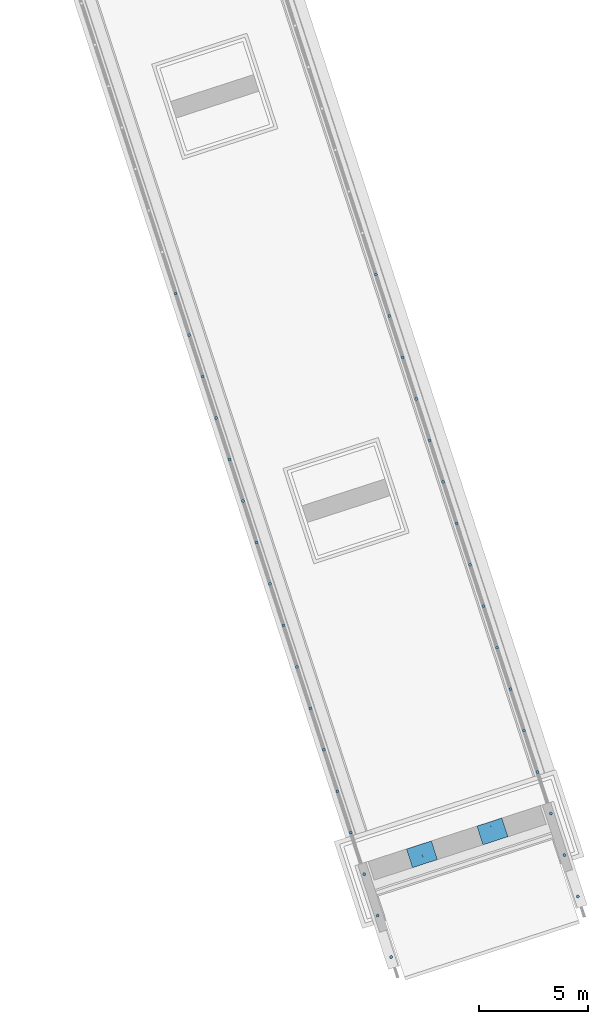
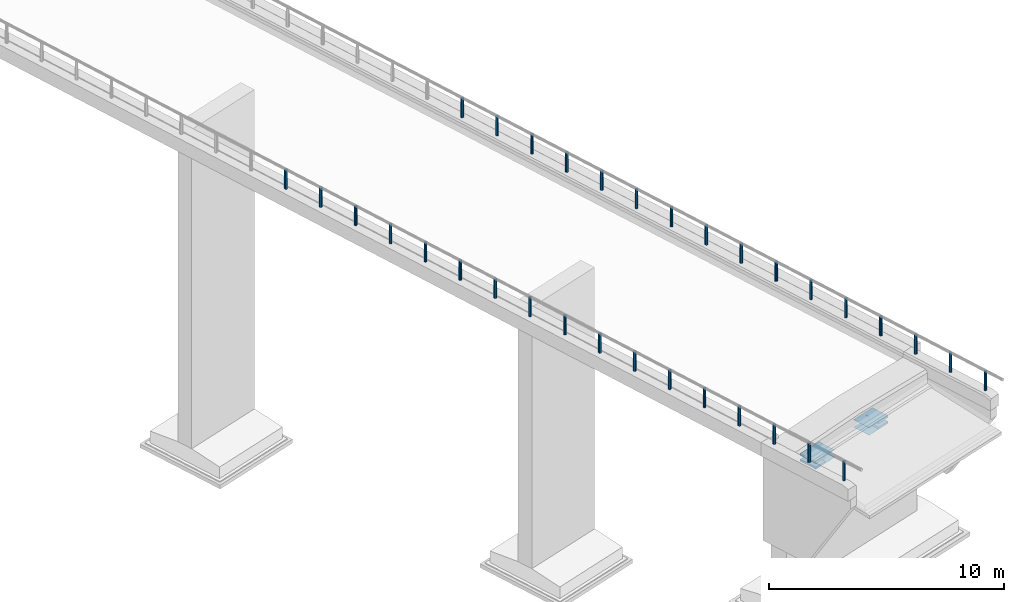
# Not in any storey, part 2 of 10: 33 members, 2 bearings, 2 elements without a shape of their own.
"""IFC4X3_ADD2 model written with IfcOpenShell, lengths in metres."""

from ifc_helpers import new_model, entity, si_unit, converted_unit, derived_unit, direction, frame, frame_2d, origin, origin_2d, place, context, subcontext, project, library, spatial, rectangle, circle, extrude, source, transform, mapped, type_object, type_shapes, element, aggregate, save


model = new_model("IFC4X3_ADD2")

# Units and contexts
model_context = context("Model", 3, precision=1e-05, world=origin(), true_north=direction((-0.011993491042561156, 0.9999280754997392)))
plan_context = context("Plan", 2, precision=1e-05, world=origin_2d())
body_context = subcontext(model_context, "Body", "Model", "MODEL_VIEW")
ifc_project = project(units=[si_unit("LENGTHUNIT", "METRE"), si_unit("AREAUNIT", "SQUARE_METRE"), si_unit("VOLUMEUNIT", "CUBIC_METRE"), si_unit("MASSUNIT", "GRAM", prefix="KILO"), converted_unit("TIMEUNIT", "year", entity("IfcTimeMeasure", 31557600.0), si_unit("TIMEUNIT", "SECOND"), dimensions=[0, 0, 1, 0, 0, 0, 0]), si_unit("PLANEANGLEUNIT", "RADIAN"), si_unit("THERMODYNAMICTEMPERATUREUNIT", "DEGREE_CELSIUS"), si_unit("FORCEUNIT", "NEWTON", prefix="KILO"), si_unit("PRESSUREUNIT", "PASCAL", prefix="MEGA"), si_unit("SOLIDANGLEUNIT", "STERADIAN"), derived_unit("MASSDENSITYUNIT", [(si_unit("MASSUNIT", "GRAM", prefix="KILO"), 1), (si_unit("VOLUMEUNIT", "CUBIC_METRE"), -1)]), derived_unit("MODULUSOFELASTICITYUNIT", [(si_unit("PRESSUREUNIT", "PASCAL", prefix="MEGA"), 1)]), derived_unit("THERMALEXPANSIONCOEFFICIENTUNIT", [(si_unit("THERMODYNAMICTEMPERATUREUNIT", "DEGREE_CELSIUS"), -1)])], contexts=[model_context, plan_context])
project_library = library(declared=ifc_project)

# Site, bridge, bridge parts
site_placement = place(None, origin())
site = spatial("IfcSite", under=ifc_project, at=site_placement, Name="Site BR-01", CompositionType="ELEMENT")
bridge_placement = place(site_placement, origin())
bridge = spatial("IfcBridge", under=site, at=bridge_placement, Name="BR-01", CompositionType="ELEMENT", PredefinedType="USERDEFINED")
bridge_part_1_placement = place(bridge_placement, origin())
bridge_part_1 = spatial("IfcBridgePart", under=bridge, at=bridge_part_1_placement, Name="Superstructure", CompositionType="ELEMENT", PredefinedType="SUPERSTRUCTURE", UsageType="LONGITUDINAL")
bridge_part_2_placement = place(bridge_part_1_placement, frame((0.0, 0.0, 62.729)))
bridge_part_2 = spatial("IfcBridgePart", under=bridge_part_1, at=bridge_part_2_placement, Name="Deck", CompositionType="ELEMENT", PredefinedType="DECK", UsageType="LONGITUDINAL")

# Railing, members
railing_1_placement = place(bridge_part_2_placement, frame((17.7389524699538, 118.69444238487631, 3.2577553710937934), z_axis=(0.0, 0.0, 1.0), x_axis=(0.3088039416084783, -0.951125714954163, 0.0)))
railing_1 = element("IfcRailing", 1, at=railing_1_placement, inside=bridge_part_2, Name="Bridge railing left", PredefinedType="GUARDRAIL")
member_type = type_object("IfcMemberType", Name="Railing post D140", PredefinedType="POST")
shared_shape = source(origin(), body_context, "Body", "SweptSolid", [extrude(circle(Radius=0.07), origin(), (0.0, 0.0, 1.0), 1.0)])
type_shapes(member_type, [shared_shape])
member_1_placement = place(bridge_part_2_placement, frame((38.11965019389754, 55.9207085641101, 1.9649926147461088), z_axis=(0.0, 0.0, 1.0), x_axis=(0.3088039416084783, -0.951125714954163, 0.0)))
member_1 = element("IfcMember", 2, at=member_1_placement, type_object=member_type, Name="Railing post left 34", PredefinedType="POST", context=body_context, shape_type="MappedRepresentation", body=[
    mapped(shared_shape, transform((0.0, 0.0, 0.0))),
])
member_2_placement = place(bridge_part_2_placement, frame((38.737247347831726, 54.018473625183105, 1.9561196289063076), z_axis=(0.0, 0.0, 1.0), x_axis=(0.3088039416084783, -0.951125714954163, 0.0)))
member_2 = element("IfcMember", 3, at=member_2_placement, type_object=member_type, Name="Railing post left 35", PredefinedType="POST", context=body_context, shape_type="MappedRepresentation", body=[
    mapped(shared_shape, transform((0.0, 0.0, 0.0))),
])
member_3_placement = place(bridge_part_2_placement, frame((39.35484421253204, 52.11623954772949, 1.947246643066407), z_axis=(0.0, 0.0, 1.0), x_axis=(0.3088039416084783, -0.951125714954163, 0.0)))
member_3 = element("IfcMember", 4, at=member_3_placement, type_object=member_type, Name="Railing post left 36", PredefinedType="POST", context=body_context, shape_type="MappedRepresentation", body=[
    mapped(shared_shape, transform((0.0, 0.0, 0.0))),
])
member_4_placement = place(bridge_part_2_placement, frame((39.972440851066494, 50.214005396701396, 1.938373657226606), z_axis=(0.0, 0.0, 1.0), x_axis=(0.3088039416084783, -0.951125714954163, 0.0)))
member_4 = element("IfcMember", 5, at=member_4_placement, type_object=member_type, Name="Railing post left 37", PredefinedType="POST", context=body_context, shape_type="MappedRepresentation", body=[
    mapped(shared_shape, transform((0.0, 0.0, 0.0))),
])
member_5_placement = place(bridge_part_2_placement, frame((40.590038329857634, 48.3117705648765, 1.9295083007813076), z_axis=(0.0, 0.0, 1.0), x_axis=(0.3088039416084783, -0.951125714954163, 0.0)))
member_5 = element("IfcMember", 6, at=member_5_placement, type_object=member_type, Name="Railing post left 38", PredefinedType="POST", context=body_context, shape_type="MappedRepresentation", body=[
    mapped(shared_shape, transform((0.0, 0.0, 0.0))),
])
member_6_placement = place(bridge_part_2_placement, frame((41.207634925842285, 46.409536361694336, 1.920635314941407), z_axis=(0.0, 0.0, 1.0), x_axis=(0.3088039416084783, -0.951125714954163, 0.0)))
member_6 = element("IfcMember", 7, at=member_6_placement, type_object=member_type, Name="Railing post left 39", PredefinedType="POST", context=body_context, shape_type="MappedRepresentation", body=[
    mapped(shared_shape, transform((0.0, 0.0, 0.0))),
])
member_7_placement = place(bridge_part_2_placement, frame((41.8252317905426, 44.50730228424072, 1.911762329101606), z_axis=(0.0, 0.0, 1.0), x_axis=(0.3088039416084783, -0.951125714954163, 0.0)))
member_7 = element("IfcMember", 8, at=member_7_placement, type_object=member_type, Name="Railing post left 40", PredefinedType="POST", context=body_context, shape_type="MappedRepresentation", body=[
    mapped(shared_shape, transform((0.0, 0.0, 0.0))),
])
member_8_placement = place(bridge_part_2_placement, frame((42.442828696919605, 42.605067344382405, 1.9028893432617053), z_axis=(0.0, 0.0, 1.0), x_axis=(0.3088039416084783, -0.951125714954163, 0.0)))
member_8 = element("IfcMember", 9, at=member_8_placement, type_object=member_type, Name="Railing post left 41", PredefinedType="POST", context=body_context, shape_type="MappedRepresentation", body=[
    mapped(shared_shape, transform((0.0, 0.0, 0.0))),
])
member_9_placement = place(bridge_part_2_placement, frame((43.06042551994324, 40.70283365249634, 1.8940163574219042), z_axis=(0.0, 0.0, 1.0), x_axis=(0.3088039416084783, -0.951125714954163, 0.0)))
member_9 = element("IfcMember", 10, at=member_9_placement, type_object=member_type, Name="Railing post left 42", PredefinedType="POST", context=body_context, shape_type="MappedRepresentation", body=[
    mapped(shared_shape, transform((0.0, 0.0, 0.0))),
])
member_10_placement = place(bridge_part_2_placement, frame((43.678022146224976, 38.800599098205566, 1.885151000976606), z_axis=(0.0, 0.0, 1.0), x_axis=(0.3088039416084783, -0.951125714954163, 0.0)))
member_10 = element("IfcMember", 11, at=member_10_placement, type_object=member_type, Name="Railing post left 43", PredefinedType="POST", context=body_context, shape_type="MappedRepresentation", body=[
    mapped(shared_shape, transform((0.0, 0.0, 0.0))),
])
member_11_placement = place(bridge_part_2_placement, frame((44.29561924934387, 36.89836502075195, 1.8762780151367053), z_axis=(0.0, 0.0, 1.0), x_axis=(0.3088039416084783, -0.951125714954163, 0.0)))
member_11 = element("IfcMember", 12, at=member_11_placement, type_object=member_type, Name="Railing post left 44", PredefinedType="POST", context=body_context, shape_type="MappedRepresentation", body=[
    mapped(shared_shape, transform((0.0, 0.0, 0.0))),
])
member_12_placement = place(bridge_part_2_placement, frame((44.91321587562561, 34.99613046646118, 1.8674050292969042), z_axis=(0.0, 0.0, 1.0), x_axis=(0.3088039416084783, -0.951125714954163, 0.0)))
member_12 = element("IfcMember", 13, at=member_12_placement, type_object=member_type, Name="Railing post left 45", PredefinedType="POST", context=body_context, shape_type="MappedRepresentation", body=[
    mapped(shared_shape, transform((0.0, 0.0, 0.0))),
])
member_13_placement = place(bridge_part_2_placement, frame((45.53081297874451, 33.09389615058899, 1.8585320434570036), z_axis=(0.0, 0.0, 1.0), x_axis=(0.3088039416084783, -0.951125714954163, 0.0)))
member_13 = element("IfcMember", 14, at=member_13_placement, type_object=member_type, Name="Railing post left 46", PredefinedType="POST", context=body_context, shape_type="MappedRepresentation", body=[
    mapped(shared_shape, transform((0.0, 0.0, 0.0))),
])
member_14_placement = place(bridge_part_2_placement, frame((46.148409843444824, 31.191662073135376, 1.8496590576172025), z_axis=(0.0, 0.0, 1.0), x_axis=(0.3088039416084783, -0.951125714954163, 0.0)))
member_14 = element("IfcMember", 15, at=member_14_placement, type_object=member_type, Name="Railing post left 47", PredefinedType="POST", context=body_context, shape_type="MappedRepresentation", body=[
    mapped(shared_shape, transform((0.0, 0.0, 0.0))),
])
member_15_placement = place(bridge_part_2_placement, frame((46.76600646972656, 29.289427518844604, 1.8407860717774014), z_axis=(0.0, 0.0, 1.0), x_axis=(0.3088039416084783, -0.951125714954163, 0.0)))
member_15 = element("IfcMember", 16, at=member_15_placement, type_object=member_type, Name="Railing post left 48", PredefinedType="POST", context=body_context, shape_type="MappedRepresentation", body=[
    mapped(shared_shape, transform((0.0, 0.0, 0.0))),
])
member_16_placement = place(bridge_part_2_placement, frame((47.383603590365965, 27.387193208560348, 1.8319207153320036), z_axis=(0.0, 0.0, 1.0), x_axis=(0.3088039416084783, -0.951125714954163, 0.0)))
member_16 = element("IfcMember", 17, at=member_16_placement, type_object=member_type, Name="Railing post left 49", PredefinedType="POST", context=body_context, shape_type="MappedRepresentation", body=[
    mapped(shared_shape, transform((0.0, 0.0, 0.0))),
])
aggregate(railing_1, [member_1, member_2, member_3, member_4, member_5, member_6, member_7, member_8, member_9, member_10, member_11, member_12, member_13, member_14, member_15, member_16])

railing_2_placement = place(bridge_part_2_placement, frame((9.178916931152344, 115.91495513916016, 3.319721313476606), z_axis=(0.0, 0.0, 1.0), x_axis=(0.3088039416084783, -0.951125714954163, 0.0)))
railing_2 = element("IfcRailing", 18, at=railing_2_placement, inside=bridge_part_2, Name="Bridge railing right", PredefinedType="GUARDRAIL")
member_17_placement = place(bridge_part_2_placement, frame((28.941941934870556, 55.043646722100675, 1.993160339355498), z_axis=(0.0, 0.0, 1.0), x_axis=(0.3088039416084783, -0.951125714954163, 0.0)))
member_17 = element("IfcMember", 19, at=member_17_placement, type_object=member_type, Name="Railing post right 33", PredefinedType="POST", context=body_context, shape_type="MappedRepresentation", body=[
    mapped(shared_shape, transform((0.0, 0.0, 0.0))),
])
member_18_placement = place(bridge_part_2_placement, frame((29.559536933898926, 53.141417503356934, 1.9829598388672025), z_axis=(0.0, 0.0, 1.0), x_axis=(0.3088039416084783, -0.951125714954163, 0.0)))
member_18 = element("IfcMember", 20, at=member_18_placement, type_object=member_type, Name="Railing post right 34", PredefinedType="POST", context=body_context, shape_type="MappedRepresentation", body=[
    mapped(shared_shape, transform((0.0, 0.0, 0.0))),
])
member_19_placement = place(bridge_part_2_placement, frame((30.177131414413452, 51.23918914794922, 1.9727517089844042), z_axis=(0.0, 0.0, 1.0), x_axis=(0.3088039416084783, -0.951125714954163, 0.0)))
member_19 = element("IfcMember", 21, at=member_19_placement, type_object=member_type, Name="Railing post right 35", PredefinedType="POST", context=body_context, shape_type="MappedRepresentation", body=[
    mapped(shared_shape, transform((0.0, 0.0, 0.0))),
])
member_20_placement = place(bridge_part_2_placement, frame((30.794726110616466, 49.33696086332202, 1.9625512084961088), z_axis=(0.0, 0.0, 1.0), x_axis=(0.3088039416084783, -0.951125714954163, 0.0)))
member_20 = element("IfcMember", 22, at=member_20_placement, type_object=member_type, Name="Railing post right 36", PredefinedType="POST", context=body_context, shape_type="MappedRepresentation", body=[
    mapped(shared_shape, transform((0.0, 0.0, 0.0))),
])
member_21_placement = place(bridge_part_2_placement, frame((31.412320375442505, 47.43473243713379, 1.9523430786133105), z_axis=(0.0, 0.0, 1.0), x_axis=(0.3088039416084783, -0.951125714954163, 0.0)))
member_21 = element("IfcMember", 23, at=member_21_placement, type_object=member_type, Name="Railing post right 37", PredefinedType="POST", context=body_context, shape_type="MappedRepresentation", body=[
    mapped(shared_shape, transform((0.0, 0.0, 0.0))),
])
member_22_placement = place(bridge_part_2_placement, frame((32.02991509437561, 45.532504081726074, 1.942134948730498), z_axis=(0.0, 0.0, 1.0), x_axis=(0.3088039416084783, -0.951125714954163, 0.0)))
member_22 = element("IfcMember", 24, at=member_22_placement, type_object=member_type, Name="Railing post right 38", PredefinedType="POST", context=body_context, shape_type="MappedRepresentation", body=[
    mapped(shared_shape, transform((0.0, 0.0, 0.0))),
])
member_23_placement = place(bridge_part_2_placement, frame((32.64750933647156, 43.63027572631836, 1.9319344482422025), z_axis=(0.0, 0.0, 1.0), x_axis=(0.3088039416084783, -0.951125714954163, 0.0)))
member_23 = element("IfcMember", 25, at=member_23_placement, type_object=member_type, Name="Railing post right 39", PredefinedType="POST", context=body_context, shape_type="MappedRepresentation", body=[
    mapped(shared_shape, transform((0.0, 0.0, 0.0))),
])
member_24_placement = place(bridge_part_2_placement, frame((33.26510405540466, 41.728047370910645, 1.9217263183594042), z_axis=(0.0, 0.0, 1.0), x_axis=(0.3088039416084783, -0.951125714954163, 0.0)))
member_24 = element("IfcMember", 26, at=member_24_placement, type_object=member_type, Name="Railing post right 40", PredefinedType="POST", context=body_context, shape_type="MappedRepresentation", body=[
    mapped(shared_shape, transform((0.0, 0.0, 0.0))),
])
member_25_placement = place(bridge_part_2_placement, frame((33.88269877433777, 39.82581901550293, 1.9115258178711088), z_axis=(0.0, 0.0, 1.0), x_axis=(0.3088039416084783, -0.951125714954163, 0.0)))
member_25 = element("IfcMember", 27, at=member_25_placement, type_object=member_type, Name="Railing post right 41", PredefinedType="POST", context=body_context, shape_type="MappedRepresentation", body=[
    mapped(shared_shape, transform((0.0, 0.0, 0.0))),
])
member_26_placement = place(bridge_part_2_placement, frame((34.500293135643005, 37.923590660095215, 1.9013176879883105), z_axis=(0.0, 0.0, 1.0), x_axis=(0.3088039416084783, -0.951125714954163, 0.0)))
member_26 = element("IfcMember", 28, at=member_26_placement, type_object=member_type, Name="Railing post right 42", PredefinedType="POST", context=body_context, shape_type="MappedRepresentation", body=[
    mapped(shared_shape, transform((0.0, 0.0, 0.0))),
])
member_27_placement = place(bridge_part_2_placement, frame((35.11788773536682, 36.0213623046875, 1.8911171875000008), z_axis=(0.0, 0.0, 1.0), x_axis=(0.3088039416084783, -0.951125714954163, 0.0)))
member_27 = element("IfcMember", 29, at=member_27_placement, type_object=member_type, Name="Railing post right 43", PredefinedType="POST", context=body_context, shape_type="MappedRepresentation", body=[
    mapped(shared_shape, transform((0.0, 0.0, 0.0))),
])
member_28_placement = place(bridge_part_2_placement, frame((35.73548221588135, 34.119133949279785, 1.8809090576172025), z_axis=(0.0, 0.0, 1.0), x_axis=(0.3088039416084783, -0.951125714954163, 0.0)))
member_28 = element("IfcMember", 30, at=member_28_placement, type_object=member_type, Name="Railing post right 44", PredefinedType="POST", context=body_context, shape_type="MappedRepresentation", body=[
    mapped(shared_shape, transform((0.0, 0.0, 0.0))),
])
member_29_placement = place(bridge_part_2_placement, frame((36.35307675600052, 32.21690535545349, 1.8707009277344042), z_axis=(0.0, 0.0, 1.0), x_axis=(0.3088039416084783, -0.951125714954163, 0.0)))
member_29 = element("IfcMember", 31, at=member_29_placement, type_object=member_type, Name="Railing post right 45", PredefinedType="POST", context=body_context, shape_type="MappedRepresentation", body=[
    mapped(shared_shape, transform((0.0, 0.0, 0.0))),
])
member_30_placement = place(bridge_part_2_placement, frame((36.97067129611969, 30.314677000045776, 1.8605004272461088), z_axis=(0.0, 0.0, 1.0), x_axis=(0.3088039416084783, -0.951125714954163, 0.0)))
member_30 = element("IfcMember", 32, at=member_30_placement, type_object=member_type, Name="Railing post right 46", PredefinedType="POST", context=body_context, shape_type="MappedRepresentation", body=[
    mapped(shared_shape, transform((0.0, 0.0, 0.0))),
])
member_31_placement = place(bridge_part_2_placement, frame((37.58826583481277, 28.412448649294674, 1.8502922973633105), z_axis=(0.0, 0.0, 1.0), x_axis=(0.3088039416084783, -0.951125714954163, 0.0)))
member_31 = element("IfcMember", 33, at=member_31_placement, type_object=member_type, Name="Railing post right 47", PredefinedType="POST", context=body_context, shape_type="MappedRepresentation", body=[
    mapped(shared_shape, transform((0.0, 0.0, 0.0))),
])
member_32_placement = place(bridge_part_2_placement, frame((38.205860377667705, 26.510220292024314, 1.8400917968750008), z_axis=(0.0, 0.0, 1.0), x_axis=(0.3088039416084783, -0.951125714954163, 0.0)))
member_32 = element("IfcMember", 34, at=member_32_placement, type_object=member_type, Name="Railing post right 48", PredefinedType="POST", context=body_context, shape_type="MappedRepresentation", body=[
    mapped(shared_shape, transform((0.0, 0.0, 0.0))),
])
member_33_placement = place(bridge_part_2_placement, frame((38.8234549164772, 24.607991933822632, 1.8298836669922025), z_axis=(0.0, 0.0, 1.0), x_axis=(0.3088039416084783, -0.951125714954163, 0.0)))
member_33 = element("IfcMember", 35, at=member_33_placement, type_object=member_type, Name="Railing post right 49", PredefinedType="POST", context=body_context, shape_type="MappedRepresentation", body=[
    mapped(shared_shape, transform((0.0, 0.0, 0.0))),
])
aggregate(railing_2, [member_17, member_18, member_19, member_20, member_21, member_22, member_23, member_24, member_25, member_26, member_27, member_28, member_29, member_30, member_31, member_32, member_33])

# Bridge parts
bridge_part_3_placement = place(bridge_placement, origin())
bridge_part_3 = spatial("IfcBridgePart", under=bridge, at=bridge_part_3_placement, Name="Substructure", CompositionType="ELEMENT", PredefinedType="SUBSTRUCTURE", UsageType="VERTICAL")
bridge_part_4_placement = place(bridge_part_3_placement, frame((0.0, 0.0, 55.75)))
bridge_part_4 = spatial("IfcBridgePart", under=bridge_part_3, at=bridge_part_4_placement, Name="A2", CompositionType="ELEMENT", PredefinedType="ABUTMENT", UsageType="VERTICAL")

# Bearings
bearing_1_placement = place(bridge_part_4_placement, frame((43.46933889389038, 30.374414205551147, 6.532100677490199), z_axis=(0.0, 0.0, 1.0), x_axis=(0.3088039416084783, -0.951125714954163, 0.0)))
element("IfcBearing", 36, at=bearing_1_placement, inside=bridge_part_4, Name="Bridge bearing A2 left", PredefinedType="ELASTOMERIC", context=body_context, shape_type="SweptSolid", body=[
    extrude(rectangle(XDim=0.9000014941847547, YDim=0.600002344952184, at=frame_2d((-7.45973486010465e-07, -0.30050006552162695))), frame((0.0, 0.0, 0.39307022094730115)), (0.0, 0.0, 1.0), 0.005386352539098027),
    extrude(rectangle(XDim=0.9000014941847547, YDim=0.600002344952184, at=frame_2d((-7.45973486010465e-07, -0.30050006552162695))), frame((0.0, 0.0, 6.866455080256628e-05)), (0.0, 0.0, 1.0), 0.005069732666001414),
    extrude(rectangle(XDim=0.9000014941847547, YDim=0.6000024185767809, at=frame_2d((7.45973486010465e-07, 0.30050002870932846))), frame((0.0, 0.0, 0.30003356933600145)), (0.0, 0.0, 1.0), 0.10003662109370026),
    extrude(rectangle(XDim=0.9000014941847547, YDim=0.6000024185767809, at=frame_2d((7.45973486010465e-07, 0.30050002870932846))), origin(), (0.0, 0.0, 1.0), 0.10003280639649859),
])
bearing_2_placement = place(bridge_part_4_placement, frame((40.23645989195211, 29.324797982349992, 6.532485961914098), z_axis=(0.0, 0.0, 1.0), x_axis=(0.3088039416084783, -0.951125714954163, 0.0)))
element("IfcBearing", 37, at=bearing_2_placement, inside=bridge_part_4, Name="Bridge bearing A2 right", PredefinedType="ELASTOMERIC", context=body_context, shape_type="SweptSolid", body=[
    extrude(rectangle(XDim=0.9000017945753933, YDim=0.6000021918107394, at=frame_2d((7.280943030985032e-07, 0.300500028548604))), frame((0.0, 0.0, 0.3930015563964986)), (0.0, 0.0, 1.0), 0.005069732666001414),
    extrude(rectangle(XDim=0.9000017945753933, YDim=0.6000021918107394, at=frame_2d((7.280943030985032e-07, 0.300500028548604))), origin(), (0.0, 0.0, 1.0), 0.005069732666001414),
    extrude(rectangle(XDim=0.9000015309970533, YDim=0.6000023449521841, at=frame_2d((-8.588295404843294e-07, -0.3004999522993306))), frame((0.0, 0.0, 0.3001060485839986)), (0.0, 0.0, 1.0), 0.10003280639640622),
    extrude(rectangle(XDim=0.9000015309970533, YDim=0.6000023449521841, at=frame_2d((-8.588295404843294e-07, -0.3004999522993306))), frame((0.0, 0.0, 6.866455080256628e-05)), (0.0, 0.0, 1.0), 0.10003662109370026),
])

save(model, "model.ifc")
